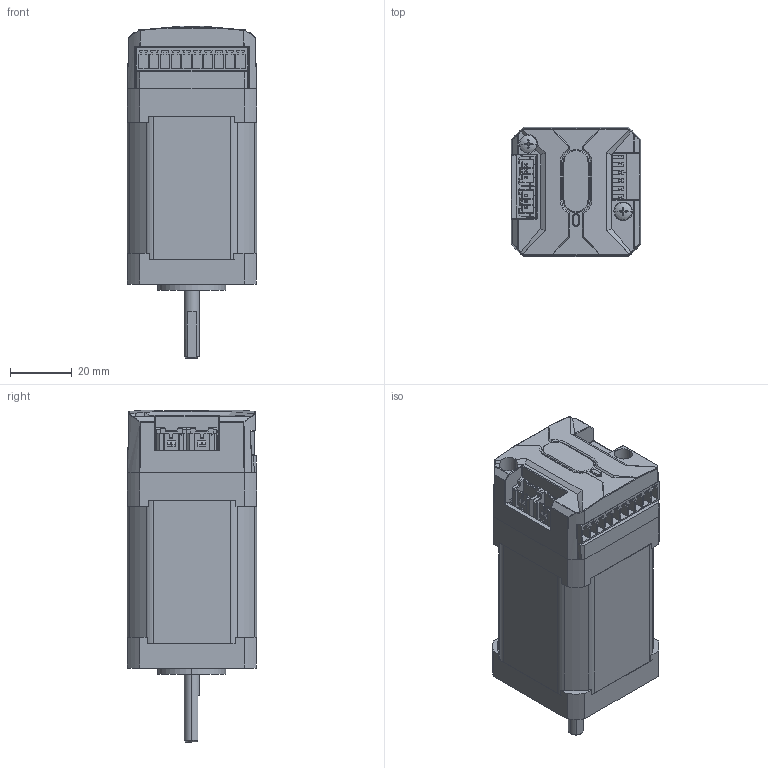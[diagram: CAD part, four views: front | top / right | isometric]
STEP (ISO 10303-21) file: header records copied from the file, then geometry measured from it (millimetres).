
FILE_DESCRIPTION((''),'2;1');
FILE_NAME('ASM0001_ASM','2021-12-30T',('gngxm10'),(''),'PRO/ENGINEER BY PARAMETRIC TECHNOLOGY CORPORATION, 2015240','PRO/ENGINEER BY PARAMETRIC TECHNOLOGY CORPORATION, 2015240','');
FILE_SCHEMA(('AUTOMOTIVE_DESIGN { 1 2 10303 214 0 1 1 1 }'));
Length unit declared in the file: inch
Products named in the file (15): BREP_WITH_VOIDS_45786; MANIFOLD_SOLID_BREP_45874; MANIFOLD_SOLID_BREP_45992; MANIFOLD_SOLID_BREP_55558; ASM0002_ASM; ICL42_06_3D_ASM; _____1-8402; _____1-14801; _______1-9158; _____1-9344; _______1-13677; ___1; ASM0003_ASM; ICL42CM08_ASM; ASM0001_ASM
Assembly tree (16 placements, depth 4):
  ASM0001_ASM
    ICL42_06_3D_ASM
      ASM0002_ASM
        BREP_WITH_VOIDS_45786
        MANIFOLD_SOLID_BREP_45874
        MANIFOLD_SOLID_BREP_45992
        MANIFOLD_SOLID_BREP_55558
    ICL42CM08_ASM
      ASM0003_ASM
        _____1-8402
        _____1-14801
        _______1-9158
        _____1-9344  x3
        _______1-13677
        ___1
Bounding box: 42.13 x 42.13 x 107.81 mm (x, y, z)
Volume: 80689.9 mm3; surface area: 56912.8 mm2
Topology: 13 solids, 24 shells, 2787 faces, 6968 edges, 4250 vertices
Faces by surface type: cone 1351, plane 1027, cylinder 303, bspline 52, sphere 30, torus 21, revolution 3
Entity records: 83375 total; most frequent: CARTESIAN_POINT 13534, DIRECTION 11145, ORIENTED_EDGE 10807, PRESENTATION_STYLE_ASSIGNMENT 5489, STYLED_ITEM 5489, CURVE_STYLE 5467, EDGE_CURVE 5467, AXIS2_PLACEMENT_3D 3784
